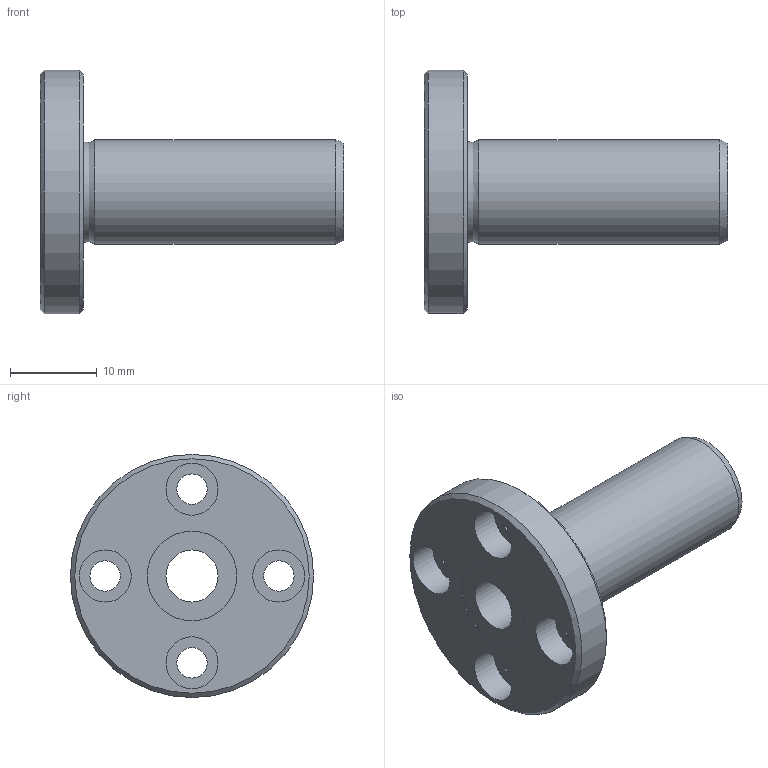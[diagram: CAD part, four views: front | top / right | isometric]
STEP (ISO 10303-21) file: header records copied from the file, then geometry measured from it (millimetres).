
FILE_DESCRIPTION((''),'2;1');
FILE_NAME('D:\製品 (図面)\カタログ用3D\リニアベアリング関連\STEP形式\LFD\LFD6.stp','2010-06-03T09:19:02',('Tsuchiya'),(''),'Autodesk Inventor 10','Autodesk Inventor 10','');
FILE_SCHEMA(('AUTOMOTIVE_DESIGN { 1 0 10303 214 1 1 1 1 }'));
Length unit declared in the file: millimetre
Products named in the file (1): LFD6
Bounding box: 35 x 28 x 28 mm (x, y, z)
Volume: 5000.4 mm3; surface area: 3594.5 mm2
Topology: 1 solids, 1 shells, 26 faces, 47 edges, 30 vertices
Faces by surface type: cylinder 13, plane 9, cone 2, bspline 2
Full cylindrical faces by diameter (mm): 3.5 x4, 6 x5, 10.3 x2, 12 x1, 28 x1
Entity records: 687 total; most frequent: CARTESIAN_POINT 175, DIRECTION 110, ORIENTED_EDGE 60, EDGE_LOOP 60, AXIS2_PLACEMENT_3D 55, FACE_BOUND 34, VERTEX_POINT 30, CIRCLE 30
